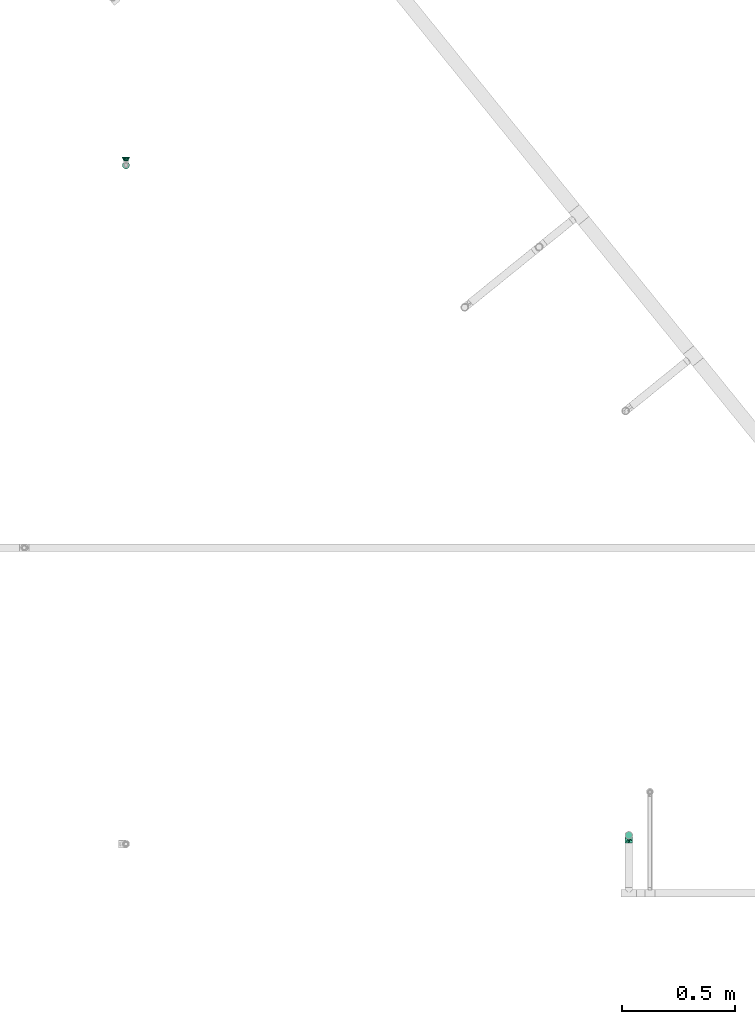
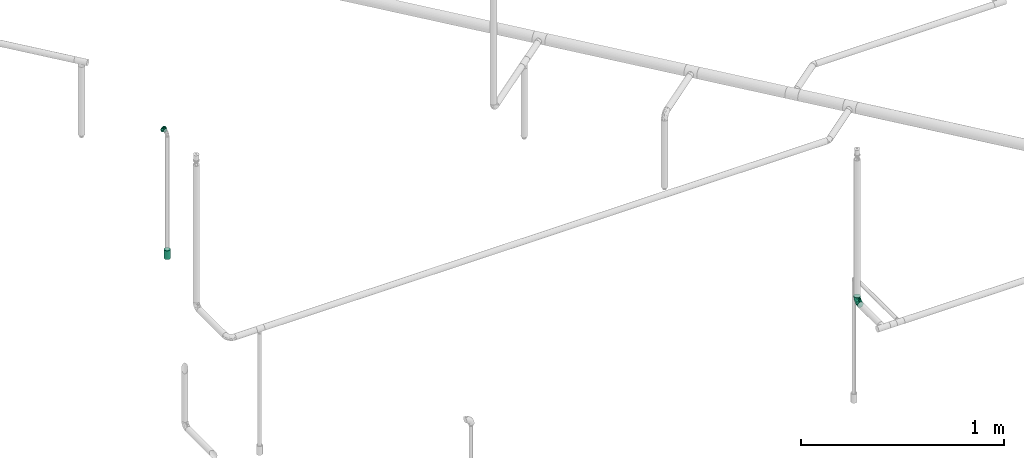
# One storey, part 67 of 94: 2 flow fittings, 1 flow terminal.
"""IFC2X3 building model written with IfcOpenShell, lengths in millimetres."""

from ifc_helpers import new_model, entity, si_unit, converted_unit, derived_unit, direction, frame, origin_with_axes, place, context, subcontext, project, spatial, open_shell, surface_model, source, transform, mapped, type_object, element, save


model = new_model("IFC2X3")

# Units and contexts
model_context = context("Model", 3, precision=0.01, world=frame((0.0, 4.29681676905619e-09, 0.0)), true_north=direction((4.01073788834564e-13, 1.0)))
plan_context = context("Plan", 3, precision=0.01, world=frame((0.0, 4.29681676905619e-09, 0.0)), true_north=direction((4.01073788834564e-13, 1.0)))
body_context = subcontext(model_context, "Body", "Model", "MODEL_VIEW")
ifc_project = project(units=[converted_unit("PLANEANGLEUNIT", "DEGREE", entity("IfcPositiveLengthMeasure", 0.0174532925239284), si_unit("PLANEANGLEUNIT", "RADIAN"), dimensions=[0, 0, 0, 0, 0, 0, 0]), si_unit("AREAUNIT", "SQUARE_METRE"), si_unit("LENGTHUNIT", "METRE", prefix="MILLI"), si_unit("MASSUNIT", "GRAM", prefix="KILO"), si_unit("POWERUNIT", "WATT"), si_unit("PRESSUREUNIT", "PASCAL", prefix="KILO"), si_unit("FORCEUNIT", "NEWTON", prefix="KILO"), si_unit("ELECTRICVOLTAGEUNIT", "VOLT"), si_unit("ELECTRICCURRENTUNIT", "AMPERE"), si_unit("THERMODYNAMICTEMPERATUREUNIT", "DEGREE_CELSIUS"), si_unit("TIMEUNIT", "SECOND"), si_unit("VOLUMEUNIT", "CUBIC_METRE"), derived_unit("LINEARVELOCITYUNIT", [(si_unit("LENGTHUNIT", "METRE"), 1), (si_unit("TIMEUNIT", "SECOND"), -1)]), derived_unit("VOLUMETRICFLOWRATEUNIT", [(si_unit("VOLUMEUNIT", "CUBIC_METRE"), 1), (si_unit("TIMEUNIT", "SECOND"), -1)]), derived_unit("THERMALTRANSMITTANCEUNIT", [(si_unit("POWERUNIT", "WATT"), 1), (si_unit("THERMODYNAMICTEMPERATUREUNIT", "KELVIN"), -1), (si_unit("AREAUNIT", "SQUARE_METRE"), -1)]), derived_unit("SOUNDPRESSUREUNIT", [(si_unit("PRESSUREUNIT", "PASCAL"), 1)])], contexts=[model_context, plan_context])

# Site, building, storey
site_placement = place(None, frame((0.0, -4.29681676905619e-09, 0.0), z_axis=(0.0, 0.0, 1.0), x_axis=(1.0, 0.0, 0.0)))
site = spatial("IfcSite", under=ifc_project, at=site_placement, CompositionType="ELEMENT")
building_placement = place(site_placement, frame((0.0, 4.29681676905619e-09, 0.0), z_axis=(0.0, 0.0, 1.0), x_axis=(1.0, 0.0, 0.0)))
building = spatial("IfcBuilding", under=site, at=building_placement, Name="mc-building", CompositionType="ELEMENT")
storey_placement = place(building_placement, frame((0.0, 0.0, 210900.0), z_axis=(0.0, 0.0, 1.0), x_axis=(1.0, 0.0, 0.0)))
storey = spatial("IfcBuildingStorey", under=building, at=storey_placement, Name="Nivå F", CompositionType="ELEMENT", Elevation=210900.0)

# Flow fittings
pipe_fitting_type_1 = type_object("IfcPipeFittingType", Name="magi_pipe_fe_elbow_short_001", PredefinedType="BEND")
shared_shape_1 = source(origin_with_axes(), body_context, "Body", "SurfaceModel", [
    surface_model("IfcShellBasedSurfaceModel", [(-33.8, 8.45, -14.63583), (-33.8, 4.37404, -16.32415), (-33.8, 11.9501, -11.9501), (-33.8, -11.9501, -11.9501), (-33.8, -14.63583, -8.45), (-33.8, -8.45, -14.63583), (-33.8, 0.0, -16.9), (-33.8, -4.37404, -16.32415), (-33.8, -4.37404, 16.32415), (-33.8, 0.0, 16.9), (-33.8, -8.45, 14.63583), (-33.8, 16.32415, -4.37404), (-33.8, 14.63583, -8.45), (-33.8, -16.32415, -4.37404), (-33.8, -16.9, 0.0), (-33.8, -16.32415, 4.37404), (-33.8, 11.9501, 11.9501), (-33.8, 14.63583, 8.45), (-33.8, 16.32415, 4.37404), (-33.8, 4.37404, 16.32415), (-33.8, 8.45, 14.63583), (-33.8, -14.63583, 8.45), (-33.8, -11.9501, 11.9501), (-33.8, 16.9, 0.0), (-11.9501, 33.8, -11.9501), (0.0, 33.8, -16.9), (-4.37404, 33.8, -16.32415), (-8.45, 33.8, -14.63583), (-14.63583, 33.8, -8.45), (-16.32415, 33.8, -4.37404), (14.63583, 33.8, -8.45), (8.45, 33.8, 14.63583), (16.32415, 33.8, -4.37404), (8.45, 33.8, -14.63583), (11.9501, 33.8, -11.9501), (4.37404, 33.8, -16.32415), (16.32415, 33.8, 4.37404), (16.9, 33.8, 0.0), (-11.9501, 33.8, 11.9501), (-16.32415, 33.8, 4.37404), (-14.63583, 33.8, 8.45), (-8.45, 33.8, 14.63583), (-4.37404, 33.8, 16.32415), (11.9501, 33.8, 11.9501), (14.63583, 33.8, 8.45), (0.0, 33.8, 16.9), (4.37404, 33.8, 16.32415), (-16.9, 33.8, 0.0), (-24.79389, -13.12945, 9.48721), (-22.19287, -9.75018, 12.59315), (-24.09897, -14.97035, 0.0), (-14.93934, -10.76256, 8.5297), (-22.46095, -14.75051, 5.27077), (14.75051, 22.46094, 5.27077), (11.9251, 13.23888, 4.33236), (13.04069, 14.39795, 0.0), (7.71387, 13.68847, 11.55891), (9.75018, 22.19287, 12.59315), (4.10169, 13.0571, 14.04018), (-24.84007, -6.39063, 15.2048), (-25.81779, -2.23879, 16.61097), (-23.66549, 2.59054, 16.87119), (-26.50418, 14.06512, 11.08152), (-24.21253, 17.66365, 7.72657), (-29.58514, 15.86957, 7.00283), (-6.17382, -7.5455, 0.0), (-13.23888, -11.9251, 4.33236), (-14.39795, -13.04069, 0.0), (-17.81434, 18.87373, 11.97104), (-6.30846, 29.15138, 15.82987), (-2.31622, 25.28002, 16.85849), (-29.23923, 10.23435, 13.77053), (-1.45439, -2.85688, 7.61475), (-0.28326, 0.34872, 10.09509), (-5.74484, -4.04709, 10.4122), (-4.41137, 11.31918, 16.59407), (-8.39727, 3.10034, 15.7812), (-1.72649, 9.1306, 15.53089), (-17.39909, 24.75344, 7.64977), (-26.19233, 20.0512, 0.0), (-28.14518, 17.29657, 4.25857), (-26.05147, 6.6281, 15.96447), (-5.87354, 16.61944, 16.86968), (-12.51807, 12.51807, 16.48937), (-10.06312, 7.38516, 16.81295), (-3.01882, 3.01882, 13.81718), (-13.0571, -4.10169, 14.04018), (-16.82553, -0.15166, 16.38038), (10.76256, 14.93934, 8.5297), (13.12945, 24.79389, 9.48721), (6.39063, 24.84007, 15.2048), (2.23879, 25.81779, 16.61097), (-13.68847, -7.71387, 11.55891), (14.97035, 24.09897, 0.0), (-7.30894, 22.89991, 16.09489), (-10.67958, 26.17414, 14.008), (-12.78295, 18.26924, 15.06066), (-13.88562, 22.45231, 12.93244), (-18.04944, 15.16501, 14.04434), (-23.11658, 20.08178, 4.02986), (-21.84989, 21.84989, 0.0), (-18.55817, 25.48277, 3.93065), (-13.95142, 26.94732, 11.03289), (-18.57098, 7.23906, 16.59756), (-16.58335, 4.14122, 16.89279), (-17.96666, 11.46709, 15.63151), (-9.84453, 17.54304, 16.18938), (0.15166, 16.82553, 16.38038), (-23.27207, 11.47201, 14.23154), (3.84842, 5.86994, 10.70473), (-8.0212, -7.54413, 7.93275), (1.00345, -2.19508, 4.57414), (5.13203, 3.01004, 5.90201), (5.24161, 1.7543, 2.53265), (8.70457, 7.04947, 3.99182), (-20.0512, 26.19233, 0.0), (8.4852, 8.76699, 7.09296), (-4.55488, -6.72064, 4.90681), (2.05031, -2.05031, 0.0), (7.5455, 6.17382, 0.0), (-26.75399, 2.1369, -16.845), (-14.61995, 24.73803, -11.27736), (-28.45274, -13.45335, -9.81895), (-26.00469, 6.63555, -15.96645), (-23.06726, 20.04573, -4.26202), (-13.80647, -4.26506, -14.17873), (-14.67501, -0.21081, -16.07388), (-6.7902, -0.2828, -13.8478), (-24.53586, 11.08096, -14.13417), (-26.72048, 14.00837, -11.05776), (10.0967, 24.44989, -12.75976), (5.83237, 21.40218, -15.03047), (6.66249, 28.54238, -15.38093), (-20.38182, 15.48705, -12.74596), (12.53268, 21.23441, -9.15363), (12.54494, 15.67504, -5.54878), (9.7522, 12.89279, -8.66343), (-15.65186, 19.64213, -13.01327), (-12.03528, 20.66498, -14.67665), (-15.61907, 15.61906, -14.83879), (-25.56551, -15.26206, 0.0), (-24.65452, -15.12934, -5.50955), (13.45335, 28.45274, -9.81895), (15.12934, 24.65452, -5.50955), (-7.35442, -8.31014, -5.65563), (-15.67504, -12.54494, -5.54878), (-24.44989, -10.0967, -12.75976), (0.16522, 0.41303, -9.71728), (-5.70658, -5.33066, -8.89288), (-5.13869, -2.37198, -11.53565), (-21.23441, -12.53268, -9.15363), (0.71146, 7.93863, -14.09382), (0.21081, 14.67501, -16.07388), (3.49291, 14.42772, -14.76381), (-24.89911, -2.13088, -16.591), (-28.54238, -6.66249, -15.38093), (-18.44386, -7.71663, -13.26957), (2.13088, 24.89911, -16.591), (-28.64342, 17.44413, -2.89318), (1.70017, -1.28722, -5.09504), (-16.57067, 26.81947, -7.36596), (-17.69055, 27.4263, -3.76405), (-12.89279, -9.7522, -8.66343), (-5.96611, 5.96611, -15.95814), (-20.53709, 20.09345, -8.28985), (-2.1369, 26.75399, -16.845), (-6.89872, 24.58781, -16.02578), (-10.60739, 26.53157, -13.98044), (-21.40218, -5.83237, -15.03047), (2.93192, 5.89627, -11.55917), (6.89393, 12.61842, -11.82233), (5.58056, 5.95325, -8.79455), (-3.99512, 18.61798, -16.89635), (8.31014, 7.35442, -5.65563), (-9.1383, 9.86148, -16.89041), (-9.99983, 16.02119, -16.39699), (-16.68576, 9.78031, -16.34199), (-27.01915, 16.61158, -7.12979), (15.26206, 25.56551, 0.0), (-18.61798, 3.99512, -16.89635), (-19.37495, 27.82495, 0.0), (-12.61842, -6.89393, -11.82233), (-18.84705, 19.14018, -10.96545)], [open_shell([[[0, 1, 2]], [[3, 4, 5]], [[6, 7, 5]], [[8, 9, 10]], [[1, 6, 2]], [[11, 12, 2]], [[4, 2, 6]], [[2, 13, 10]], [[5, 4, 6]], [[2, 4, 13]], [[14, 15, 13]], [[11, 2, 16]], [[11, 17, 18]], [[11, 16, 17]], [[19, 20, 16]], [[16, 2, 10]], [[19, 16, 10]], [[21, 22, 15]], [[22, 13, 15]], [[22, 10, 13]], [[10, 9, 19]], [[11, 18, 23]], [[24, 25, 26]], [[24, 26, 27]], [[24, 28, 29]], [[25, 24, 30]], [[31, 32, 24]], [[33, 30, 34]], [[33, 35, 25]], [[25, 30, 33]], [[32, 30, 24]], [[32, 36, 37]], [[38, 24, 29]], [[39, 40, 29]], [[40, 38, 29]], [[38, 41, 42]], [[38, 31, 24]], [[31, 38, 42]], [[36, 43, 44]], [[36, 32, 43]], [[31, 45, 46]], [[32, 31, 43]], [[42, 45, 31]], [[39, 29, 47]], [[22, 48, 49]], [[15, 14, 50]], [[51, 48, 52]], [[53, 54, 55]], [[48, 22, 21]], [[15, 52, 21]], [[56, 57, 58]], [[49, 10, 22]], [[49, 59, 10]], [[9, 60, 61]], [[62, 63, 64]], [[65, 66, 67]], [[57, 43, 31]], [[62, 68, 63]], [[42, 69, 70]], [[20, 71, 16]], [[8, 60, 9]], [[72, 73, 74]], [[75, 76, 77]], [[16, 62, 17]], [[40, 39, 78]], [[79, 23, 80]], [[64, 18, 17]], [[9, 61, 19]], [[19, 81, 20]], [[82, 83, 84]], [[74, 85, 86]], [[59, 86, 87]], [[88, 89, 57]], [[90, 31, 46]], [[44, 53, 36]], [[46, 45, 91]], [[54, 53, 88]], [[44, 89, 53]], [[92, 86, 49]], [[89, 44, 43]], [[10, 59, 8]], [[53, 55, 93]], [[93, 36, 53]], [[66, 52, 67]], [[94, 82, 70]], [[95, 96, 94]], [[97, 98, 96]], [[79, 99, 100]], [[41, 38, 95]], [[101, 100, 99]], [[68, 78, 63]], [[42, 41, 69]], [[23, 18, 80]], [[95, 94, 69]], [[78, 101, 99]], [[38, 102, 95]], [[70, 45, 42]], [[97, 95, 102]], [[15, 50, 52]], [[90, 57, 31]], [[57, 90, 58]], [[81, 19, 61]], [[103, 104, 84]], [[105, 81, 103]], [[38, 40, 102]], [[106, 96, 83]], [[94, 106, 82]], [[91, 70, 107]], [[71, 62, 16]], [[62, 108, 98]], [[86, 59, 49]], [[67, 52, 50]], [[60, 59, 87]], [[92, 49, 51]], [[86, 85, 76]], [[91, 90, 46]], [[37, 36, 93]], [[107, 77, 58]], [[107, 58, 90]], [[58, 85, 109]], [[110, 74, 92]], [[72, 74, 110]], [[66, 51, 52]], [[72, 111, 112]], [[113, 114, 112]], [[56, 88, 57]], [[52, 48, 21]], [[49, 48, 51]], [[57, 89, 43]], [[53, 89, 88]], [[103, 81, 61]], [[71, 81, 108]], [[18, 64, 80]], [[63, 78, 99]], [[47, 115, 101]], [[101, 115, 100]], [[40, 78, 102]], [[68, 102, 78]], [[97, 96, 95]], [[105, 98, 108]], [[103, 84, 83]], [[107, 70, 82]], [[76, 84, 87]], [[82, 84, 75]], [[70, 91, 45]], [[90, 91, 107]], [[59, 60, 8]], [[61, 60, 87]], [[73, 85, 74]], [[109, 112, 116]], [[103, 61, 104]], [[105, 103, 83]], [[96, 105, 83]], [[81, 105, 108]], [[96, 98, 105]], [[62, 98, 68]], [[61, 87, 104]], [[87, 84, 104]], [[86, 76, 87]], [[77, 76, 85]], [[58, 77, 85]], [[75, 77, 107]], [[82, 75, 107]], [[76, 75, 84]], [[81, 71, 20]], [[62, 71, 108]], [[95, 69, 41]], [[70, 69, 94]], [[62, 64, 17]], [[80, 63, 99]], [[63, 80, 64]], [[80, 99, 79]], [[66, 65, 117]], [[110, 66, 117]], [[112, 114, 116]], [[118, 117, 65]], [[110, 92, 51]], [[112, 111, 113]], [[119, 55, 54]], [[74, 86, 92]], [[58, 109, 56]], [[116, 56, 109]], [[66, 110, 51]], [[72, 110, 117]], [[111, 72, 117]], [[73, 112, 109]], [[117, 118, 111]], [[113, 111, 118]], [[118, 119, 113]], [[114, 119, 54]], [[119, 114, 113]], [[116, 54, 88]], [[54, 116, 114]], [[116, 88, 56]], [[112, 73, 72]], [[85, 73, 109]], [[78, 39, 101]], [[47, 101, 39]], [[102, 68, 97]], [[97, 68, 98]], [[82, 106, 83]], [[94, 96, 106]], [[1, 120, 6]], [[28, 24, 121]], [[3, 122, 4]], [[0, 123, 1]], [[100, 124, 79]], [[125, 126, 127]], [[128, 2, 129]], [[130, 131, 132]], [[128, 129, 133]], [[134, 135, 136]], [[137, 138, 139]], [[128, 0, 2]], [[67, 140, 141]], [[134, 142, 143]], [[141, 13, 4]], [[144, 65, 145]], [[146, 3, 5]], [[147, 148, 149]], [[145, 141, 150]], [[151, 152, 153]], [[154, 7, 6]], [[5, 155, 146]], [[150, 146, 156]], [[155, 5, 7]], [[143, 135, 134]], [[35, 157, 25]], [[23, 79, 158]], [[148, 159, 144]], [[160, 161, 29]], [[145, 162, 144]], [[163, 152, 151]], [[29, 28, 160]], [[121, 164, 160]], [[33, 34, 130]], [[25, 165, 26]], [[26, 165, 166]], [[142, 34, 30]], [[24, 27, 167]], [[124, 161, 164]], [[157, 35, 132]], [[155, 154, 168]], [[123, 0, 128]], [[169, 170, 171]], [[172, 157, 152]], [[26, 166, 27]], [[132, 35, 33]], [[142, 130, 34]], [[168, 154, 126]], [[136, 135, 173]], [[133, 137, 139]], [[2, 12, 129]], [[170, 131, 130]], [[30, 32, 143]], [[172, 174, 175]], [[176, 123, 128]], [[158, 177, 11]], [[135, 55, 119]], [[167, 27, 166]], [[175, 166, 172]], [[137, 167, 138]], [[122, 141, 4]], [[140, 14, 13]], [[32, 37, 178]], [[170, 130, 134]], [[152, 157, 131]], [[165, 157, 172]], [[153, 170, 151]], [[152, 163, 174]], [[168, 125, 156]], [[122, 146, 150]], [[120, 154, 6]], [[179, 174, 126]], [[179, 126, 154]], [[126, 163, 127]], [[162, 145, 150]], [[140, 13, 141]], [[32, 178, 143]], [[55, 143, 178]], [[177, 129, 12]], [[128, 133, 139]], [[176, 128, 139]], [[120, 123, 179]], [[121, 160, 28]], [[161, 100, 180]], [[166, 175, 138]], [[121, 24, 167]], [[161, 47, 29]], [[79, 124, 158]], [[124, 164, 177]], [[161, 124, 100]], [[136, 171, 170]], [[127, 163, 151]], [[147, 171, 159]], [[148, 144, 162]], [[127, 151, 169]], [[127, 181, 125]], [[129, 177, 164]], [[12, 11, 177]], [[159, 65, 144]], [[67, 141, 145]], [[143, 55, 135]], [[135, 119, 173]], [[123, 120, 1]], [[154, 120, 179]], [[157, 165, 25]], [[166, 165, 172]], [[172, 152, 174]], [[176, 139, 175]], [[126, 174, 163]], [[176, 174, 179]], [[174, 176, 175]], [[123, 176, 179]], [[150, 181, 162]], [[127, 149, 181]], [[181, 148, 162]], [[159, 148, 147]], [[171, 136, 173]], [[170, 134, 136]], [[159, 171, 173]], [[171, 147, 169]], [[169, 147, 149]], [[151, 170, 169]], [[164, 182, 129]], [[182, 121, 137]], [[181, 149, 148]], [[169, 149, 127]], [[182, 137, 133]], [[167, 137, 121]], [[166, 138, 167]], [[175, 139, 138]], [[129, 182, 133]], [[121, 182, 164]], [[161, 160, 164]], [[47, 161, 180]], [[177, 158, 124]], [[23, 158, 11]], [[130, 132, 33]], [[157, 132, 131]], [[143, 142, 30]], [[130, 142, 134]], [[154, 155, 7]], [[146, 155, 168]], [[146, 122, 3]], [[141, 122, 150]], [[152, 131, 153]], [[159, 119, 118]], [[67, 145, 65]], [[170, 153, 131]], [[119, 159, 173]], [[159, 118, 65]], [[156, 125, 181]], [[126, 125, 168]], [[150, 156, 181]], [[168, 156, 146]]])]),
])
flow_fitting_1_placement = place(storey_placement, frame((727222.70412, 439239.73983, 3500.0), z_axis=(1.0, 0.0, 0.0), x_axis=(0.0, 1.0, 0.0)))
element("IfcFlowFitting", 1, at=flow_fitting_1_placement, inside=storey, type_object=pipe_fitting_type_1, Name="magi_pipe_fe_elbow_short_001", context=body_context, shape_type="MappedRepresentation", body=[
    mapped(shared_shape_1, transform((0.0, 0.0, 0.0), scale=1.0)),
])
pipe_fitting_type_2 = type_object("IfcPipeFittingType", Name="magi_pipe_fe_reducer_centric_short_NOR", PredefinedType="TRANSITION")
shared_shape_2 = source(origin_with_axes(), body_context, "Body", "SurfaceModel", [
    surface_model("IfcShellBasedSurfaceModel", [(-2.0, -7.56604, -7.56604), (-2.0, -10.33541, -2.76936), (-2.0, -5.35, -9.26647), (-2.0, 5.35, -9.26647), (-2.0, 10.33541, -2.76936), (-2.0, 7.56604, -7.56604), (12.4, 11.9501, 11.9501), (12.4, 0.0, 16.9), (12.4, 11.9501, -11.9501), (12.4, 16.9, 0.0), (0.0, -10.7, 0.0), (0.0, -5.35, 9.26647), (0.0, -5.35, -9.26647), (0.0, 10.7, 0.0), (12.4, 15.66253, -2.98753), (12.4, 8.96258, -13.18758), (0.0, 6.6875, -6.94985), (12.4, -15.66253, -2.98753), (12.4, -16.9, 0.0), (12.4, 5.97505, -14.42505), (0.0, 5.35, -9.26647), (12.4, 14.42505, -5.97505), (0.0, 8.025, -4.63324), (0.0, 9.3625, -2.31662), (0.0, -9.3625, -2.31662), (0.0, -8.025, -4.63324), (12.4, -14.42505, -5.97505), (12.4, 13.18758, -8.96258), (12.4, -13.18758, -8.96258), (12.4, -11.9501, -11.9501), (0.0, -6.6875, -6.94985), (12.4, -8.96258, -13.18758), (12.4, -5.97505, -14.42505), (12.4, -15.66253, 2.98753), (12.4, -8.96258, 13.18758), (0.0, -6.6875, 6.94985), (12.4, -11.9501, 11.9501), (12.4, 15.66253, 2.98753), (12.4, -5.97505, 14.42505), (12.4, -14.42505, 5.97505), (0.0, -8.025, 4.63324), (0.0, -9.3625, 2.31662), (0.0, 9.3625, 2.31662), (0.0, 8.025, 4.63324), (12.4, 14.42505, 5.97505), (12.4, -13.18758, 8.96258), (12.4, 13.18758, 8.96258), (0.0, 6.6875, 6.94985), (12.4, 8.96258, 13.18758), (0.0, 5.35, 9.26647), (12.4, 5.97505, 14.42505), (14.4, 4.37404, -16.32415), (14.4, 8.45, -14.63583), (14.4, 11.9501, -11.9501), (14.4, -8.45, -14.63583), (14.4, 16.32415, -4.37404), (14.4, 16.32415, 4.37404), (14.4, 14.63583, -8.45), (14.4, 0.0, -16.9), (14.4, -4.37404, -16.32415), (14.4, -11.9501, -11.9501), (14.4, -16.32415, -4.37404), (14.4, -14.63583, -8.45), (14.4, -16.32415, 4.37404), (14.4, 16.9, 0.0), (14.4, 14.63583, 8.45), (14.4, 11.9501, 11.9501), (14.4, 4.37404, 16.32415), (14.4, 8.45, 14.63583), (14.4, 0.0, 16.9), (14.4, -14.63583, 8.45), (14.4, -16.9, 0.0), (14.4, -8.45, 14.63583), (14.4, -11.9501, 11.9501), (14.4, -4.37404, 16.32415), (12.4, 4.37404, 16.32415), (12.4, -14.63583, 8.45), (12.4, 16.32415, 4.37404), (12.4, 8.45, 14.63583), (12.4, 14.63583, 8.45), (12.4, -8.45, 14.63583), (12.4, -4.37404, 16.32415), (12.4, -16.32415, 4.37404), (12.4, -16.32415, -4.37404), (12.4, -8.45, -14.63583), (12.4, 16.32415, -4.37404), (12.4, 14.63583, -8.45), (12.4, 8.45, -14.63583), (12.4, 4.37404, -16.32415), (12.4, 0.0, -16.9), (12.4, -14.63583, -8.45), (12.4, -4.37404, -16.32415), (-2.0, 2.76936, 10.33541), (-2.0, 0.0, 10.7), (-2.0, 5.35, 9.26647), (-2.0, 7.56604, 7.56604), (-2.0, 9.26647, 5.35), (-2.0, 10.33541, 2.76936), (-2.0, -10.33541, 2.76936), (-2.0, -2.76936, 10.33541), (-2.0, -7.56604, 7.56604), (-2.0, -5.35, 9.26647), (-2.0, -9.26647, 5.35), (-2.0, -10.7, 0.0), (-2.0, 9.26647, -5.35), (-2.0, 2.76936, -10.33541), (-2.0, -9.26647, -5.35), (-2.0, 0.0, -10.7), (-2.0, -2.76936, -10.33541), (-2.0, 10.7, 0.0), (0.0, 0.0, -10.7), (0.0, 2.76936, -10.33541), (0.0, 10.33541, -2.76936), (0.0, 7.56604, -7.56604), (0.0, -10.33541, -2.76936), (0.0, 9.26647, -5.35), (0.0, 0.0, 10.7), (0.0, -2.76936, -10.33541), (0.0, -7.56604, -7.56604), (0.0, -9.26647, -5.35), (0.0, 10.33541, 2.76936), (0.0, 9.26647, 5.35), (0.0, 7.56604, 7.56604), (0.0, 2.76936, 10.33541), (0.0, -7.56604, 7.56604), (0.0, -10.33541, 2.76936), (0.0, -9.26647, 5.35), (0.0, -2.76936, 10.33541), (0.0, 2.675, -9.26647), (0.0, -2.675, -9.26647), (12.4, 2.98753, -15.66253), (0.0, 0.0, -9.26647), (12.4, -2.98753, -15.66253), (0.0, -2.675, 9.26647), (0.0, 2.675, 9.26647), (12.4, -2.98753, 15.66253), (0.0, 0.0, 9.26647), (12.4, 2.98753, 15.66253)], [open_shell([[[0, 1, 2]], [[3, 4, 5]], [[6, 7, 8]], [[8, 9, 6]], [[10, 11, 12]], [[13, 9, 14]], [[15, 16, 8]], [[17, 18, 10]], [[15, 19, 20]], [[21, 22, 23]], [[24, 25, 26]], [[22, 21, 27]], [[28, 26, 25]], [[29, 30, 31]], [[12, 32, 31]], [[10, 18, 33]], [[34, 35, 36]], [[37, 9, 13]], [[34, 38, 11]], [[39, 40, 41]], [[42, 43, 44]], [[40, 39, 45]], [[46, 44, 43]], [[6, 47, 48]], [[49, 50, 48]], [[51, 52, 53]], [[54, 51, 53]], [[53, 55, 56]], [[55, 53, 57]], [[53, 56, 54]], [[58, 54, 59]], [[58, 51, 54]], [[60, 61, 62]], [[61, 60, 54]], [[54, 63, 61]], [[56, 55, 64]], [[56, 65, 66]], [[56, 66, 67]], [[67, 63, 54]], [[67, 66, 68]], [[63, 67, 69]], [[69, 70, 63]], [[71, 61, 63]], [[70, 72, 73]], [[70, 69, 72]], [[72, 69, 74]], [[54, 56, 67]], [[75, 76, 7]], [[77, 75, 78]], [[6, 79, 77]], [[6, 77, 78]], [[76, 75, 77]], [[80, 76, 36]], [[80, 81, 7]], [[7, 76, 80]], [[82, 76, 77]], [[82, 83, 18]], [[82, 77, 84]], [[77, 85, 8]], [[8, 85, 86]], [[8, 87, 88]], [[84, 77, 8]], [[88, 89, 8]], [[83, 29, 90]], [[29, 83, 84]], [[84, 89, 91]], [[83, 82, 84]], [[8, 89, 84]], [[85, 77, 9]], [[83, 61, 18]], [[90, 62, 83]], [[54, 29, 84]], [[90, 29, 60]], [[59, 84, 91]], [[83, 62, 61]], [[61, 71, 18]], [[59, 54, 84]], [[60, 29, 54]], [[60, 62, 90]], [[58, 59, 91]], [[91, 89, 58]], [[88, 51, 89]], [[87, 52, 88]], [[57, 8, 86]], [[87, 8, 53]], [[55, 86, 85]], [[87, 53, 52]], [[52, 51, 88]], [[64, 55, 85]], [[57, 86, 55]], [[57, 53, 8]], [[9, 64, 85]], [[89, 51, 58]], [[77, 56, 9]], [[79, 65, 77]], [[68, 6, 78]], [[79, 6, 66]], [[67, 78, 75]], [[77, 65, 56]], [[56, 64, 9]], [[67, 68, 78]], [[66, 6, 68]], [[66, 65, 79]], [[69, 67, 75]], [[75, 7, 69]], [[81, 74, 7]], [[80, 72, 81]], [[70, 36, 76]], [[80, 36, 73]], [[63, 76, 82]], [[80, 73, 72]], [[72, 74, 81]], [[71, 63, 82]], [[70, 76, 63]], [[70, 73, 36]], [[18, 71, 82]], [[7, 74, 69]], [[92, 1, 93]], [[94, 1, 92]], [[95, 96, 97]], [[95, 97, 94]], [[98, 93, 1]], [[99, 100, 101]], [[99, 93, 100]], [[100, 98, 102]], [[93, 98, 100]], [[98, 1, 103]], [[94, 97, 1]], [[1, 97, 4]], [[5, 4, 104]], [[4, 3, 1]], [[105, 1, 3]], [[1, 0, 106]], [[2, 107, 108]], [[2, 1, 105]], [[105, 107, 2]], [[4, 97, 109]], [[20, 110, 111]], [[112, 20, 113]], [[114, 20, 112]], [[112, 113, 115]], [[116, 114, 112]], [[110, 12, 117]], [[110, 20, 12]], [[118, 114, 119]], [[114, 118, 12]], [[20, 114, 12]], [[112, 13, 120]], [[120, 121, 122]], [[120, 122, 123]], [[116, 112, 123]], [[123, 122, 49]], [[116, 124, 114]], [[125, 124, 126]], [[10, 114, 125]], [[124, 127, 11]], [[125, 114, 124]], [[127, 124, 116]], [[123, 112, 120]], [[1, 114, 103]], [[106, 119, 1]], [[12, 0, 2]], [[106, 0, 118]], [[117, 2, 108]], [[1, 119, 114]], [[114, 10, 103]], [[117, 12, 2]], [[118, 0, 12]], [[118, 119, 106]], [[110, 117, 108]], [[108, 107, 110]], [[105, 111, 107]], [[3, 20, 105]], [[115, 5, 104]], [[3, 5, 113]], [[112, 104, 4]], [[3, 113, 20]], [[20, 111, 105]], [[13, 112, 4]], [[115, 104, 112]], [[115, 113, 5]], [[109, 13, 4]], [[107, 111, 110]], [[97, 120, 109]], [[96, 121, 97]], [[49, 95, 94]], [[96, 95, 122]], [[123, 94, 92]], [[97, 121, 120]], [[120, 13, 109]], [[123, 49, 94]], [[122, 95, 49]], [[122, 121, 96]], [[116, 123, 92]], [[92, 93, 116]], [[99, 127, 93]], [[101, 11, 99]], [[126, 100, 102]], [[101, 100, 124]], [[125, 102, 98]], [[101, 124, 11]], [[11, 127, 99]], [[10, 125, 98]], [[126, 102, 125]], [[126, 124, 100]], [[103, 10, 98]], [[93, 127, 116]], [[18, 7, 36]], [[18, 29, 8]], [[89, 8, 29]], [[18, 8, 7]], [[13, 11, 49]], [[13, 20, 12]], [[13, 12, 11]], [[24, 26, 17]], [[10, 24, 17]], [[16, 15, 20]], [[30, 12, 31]], [[23, 14, 21]], [[19, 128, 20]], [[27, 8, 16]], [[32, 12, 129]], [[30, 28, 25]], [[130, 131, 128]], [[129, 132, 32]], [[16, 22, 27]], [[13, 14, 23]], [[128, 19, 130]], [[130, 89, 131]], [[131, 132, 129]], [[89, 132, 131]], [[28, 30, 29]], [[42, 44, 37]], [[13, 42, 37]], [[35, 34, 11]], [[47, 49, 48]], [[41, 33, 39]], [[38, 133, 11]], [[45, 36, 35]], [[50, 49, 134]], [[47, 46, 43]], [[135, 136, 133]], [[134, 137, 50]], [[35, 40, 45]], [[10, 33, 41]], [[133, 38, 135]], [[135, 7, 136]], [[136, 137, 134]], [[7, 137, 136]], [[46, 47, 6]]])]),
])
flow_fitting_2_placement = place(storey_placement, frame((725000.0, 442222.1, 3500.0), z_axis=(0.0, 0.0, 1.0), x_axis=(0.0, 1.0, 0.0)))
element("IfcFlowFitting", 2, at=flow_fitting_2_placement, inside=storey, type_object=pipe_fitting_type_2, Name="magi_pipe_fe_reducer_centric_short_NOR", context=body_context, shape_type="MappedRepresentation", body=[
    mapped(shared_shape_2, transform((0.0, 0.0, 0.0), scale=1.0)),
])

# Flow terminal
fire_suppression_terminal_type = type_object("IfcFireSuppressionTerminalType", Name="SP-15-K80-68DGR-STD-HIMLING", PredefinedType="NOTDEFINED")
shared_shape_3 = source(origin_with_axes(), body_context, "Body", "SurfaceModel", [
    surface_model("IfcShellBasedSurfaceModel", [(4.1411, -15.45481, 53.0), (8.0, -13.85641, 53.0), (11.31371, -11.31371, 53.0), (-8.0, -13.85641, 53.0), (15.45481, -4.1411, 53.0), (16.0, 0.0, 53.0), (13.85641, -8.0, 53.0), (0.0, -16.0, 53.0), (-4.1411, -15.45481, 53.0), (-13.85641, -8.0, 53.0), (-11.31371, -11.31371, 53.0), (-15.45481, -4.1411, 53.0), (15.45481, 4.1411, 53.0), (13.85641, 8.0, 53.0), (11.31371, 11.31371, 53.0), (-4.1411, 15.45481, 53.0), (8.0, 13.85641, 53.0), (4.1411, 15.45481, 53.0), (0.0, 16.0, 53.0), (-13.85641, 8.0, 53.0), (-15.45481, 4.1411, 53.0), (-16.0, 0.0, 53.0), (-11.31371, 11.31371, 53.0), (-8.0, 13.85641, 53.0), (0.0, 16.0, 0.0), (4.1411, 15.45481, 0.0), (8.0, 13.85641, 0.0), (-4.1411, 15.45481, 0.0), (11.31371, 11.31371, 0.0), (13.85641, 8.0, 0.0), (15.45481, 4.1411, 0.0), (-15.45481, -4.1411, 0.0), (-11.31371, 11.31371, 0.0), (-8.0, 13.85641, 0.0), (-13.85641, 8.0, 0.0), (-15.45481, 4.1411, 0.0), (-16.0, 0.0, 0.0), (4.1411, -15.45481, 0.0), (16.0, 0.0, 0.0), (15.45481, -4.1411, 0.0), (13.85641, -8.0, 0.0), (11.31371, -11.31371, 0.0), (8.0, -13.85641, 0.0), (-8.0, -13.85641, 0.0), (-13.85641, -8.0, 0.0), (-11.31371, -11.31371, 0.0), (0.0, -16.0, 0.0), (-4.1411, -15.45481, 0.0)], [open_shell([[[0, 1, 2]], [[3, 0, 2]], [[4, 5, 2]], [[4, 2, 6]], [[3, 2, 5]], [[7, 3, 8]], [[7, 0, 3]], [[3, 9, 10]], [[9, 3, 11]], [[5, 11, 3]], [[5, 12, 11]], [[12, 13, 14]], [[15, 12, 14]], [[16, 17, 18]], [[14, 16, 15]], [[18, 15, 16]], [[11, 19, 20]], [[21, 11, 20]], [[22, 15, 23]], [[15, 22, 19]], [[19, 11, 15]], [[11, 12, 15]], [[24, 25, 26]], [[27, 24, 26]], [[28, 29, 30]], [[27, 26, 28]], [[27, 28, 31]], [[27, 32, 33]], [[32, 27, 34]], [[34, 31, 35]], [[31, 34, 27]], [[35, 31, 36]], [[28, 30, 31]], [[37, 38, 39]], [[37, 39, 40]], [[41, 42, 37]], [[41, 37, 40]], [[38, 37, 43]], [[44, 43, 45]], [[43, 44, 31]], [[43, 46, 47]], [[43, 31, 38]], [[37, 46, 43]], [[38, 31, 30]], [[11, 31, 44]], [[45, 9, 44]], [[3, 43, 47]], [[45, 43, 10]], [[8, 47, 46]], [[31, 21, 36]], [[31, 11, 21]], [[44, 9, 11]], [[45, 10, 9]], [[3, 10, 43]], [[47, 8, 3]], [[46, 7, 8]], [[0, 37, 42]], [[41, 1, 42]], [[6, 40, 39]], [[41, 40, 2]], [[4, 39, 38]], [[37, 0, 7]], [[42, 1, 0]], [[41, 2, 1]], [[40, 6, 2]], [[4, 6, 39]], [[38, 5, 4]], [[37, 7, 46]], [[12, 38, 30]], [[13, 30, 29]], [[16, 26, 25]], [[17, 25, 24]], [[30, 13, 12]], [[12, 5, 38]], [[28, 14, 13]], [[28, 26, 14]], [[14, 26, 16]], [[25, 17, 16]], [[28, 13, 29]], [[24, 18, 17]], [[15, 27, 33]], [[32, 23, 33]], [[19, 34, 35]], [[32, 34, 22]], [[20, 35, 36]], [[27, 15, 18]], [[33, 23, 15]], [[32, 22, 23]], [[34, 19, 22]], [[20, 19, 35]], [[36, 21, 20]], [[27, 18, 24]]])]),
])
flow_terminal_placement = place(storey_placement, frame((725000.0, 442200.7, 2797.53873999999), z_axis=(0.0, 0.0, -1.0), x_axis=(-1.0, 0.0, 0.0)))
element("IfcFlowTerminal", 3, at=flow_terminal_placement, inside=storey, type_object=fire_suppression_terminal_type, Name="SP-15-K80-68DGR-STD-HIMLING", context=body_context, shape_type="MappedRepresentation", body=[
    mapped(shared_shape_3, transform((0.0, 0.0, 0.0), scale=1.0)),
])

save(model, "model.ifc")
